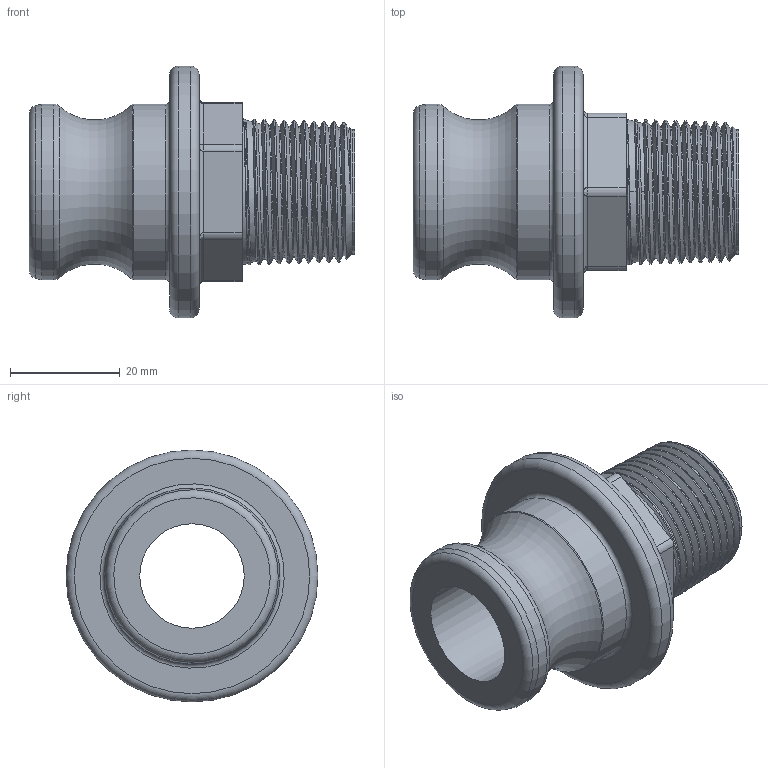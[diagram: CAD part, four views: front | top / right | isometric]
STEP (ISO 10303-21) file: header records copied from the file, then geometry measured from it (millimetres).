
FILE_DESCRIPTION(/* description */ ('Alibre Inc.'),/* implementation_level */ '2;1');
FILE_NAME(/* name */ 'export0',/* time_stamp */ '2016-03-10T17:54:07-05:00',/* author */ (''),/* organization */ (''),/* preprocessor_version */ 'ST-DEVELOPER v14',/* originating_system */ 'Alibre',/* authorisation */ '');
FILE_SCHEMA (('CONFIG_CONTROL_DESIGN'));
Length unit declared in the file: centimetre
Products named in the file (1): ID_1
Bounding box: 59.41 x 45.97 x 45.97 mm (x, y, z)
Volume: 25558.9 mm3; surface area: 12459.7 mm2
Topology: 1 solids, 1 shells, 78 faces, 197 edges, 118 vertices
Faces by surface type: cone 34, cylinder 17, plane 11, bspline 9, torus 7
Full cylindrical faces by diameter (mm): 19.05 x1, 22.726 x1, 32.106 x2, 45.974 x1
Entity records: 25031 total; most frequent: CARTESIAN_POINT 23316, ORIENTED_EDGE 350, DIRECTION 278, EDGE_CURVE 175, AXIS2_PLACEMENT_3D 118, VERTEX_POINT 116, EDGE_LOOP 97, FACE_BOUND 97
